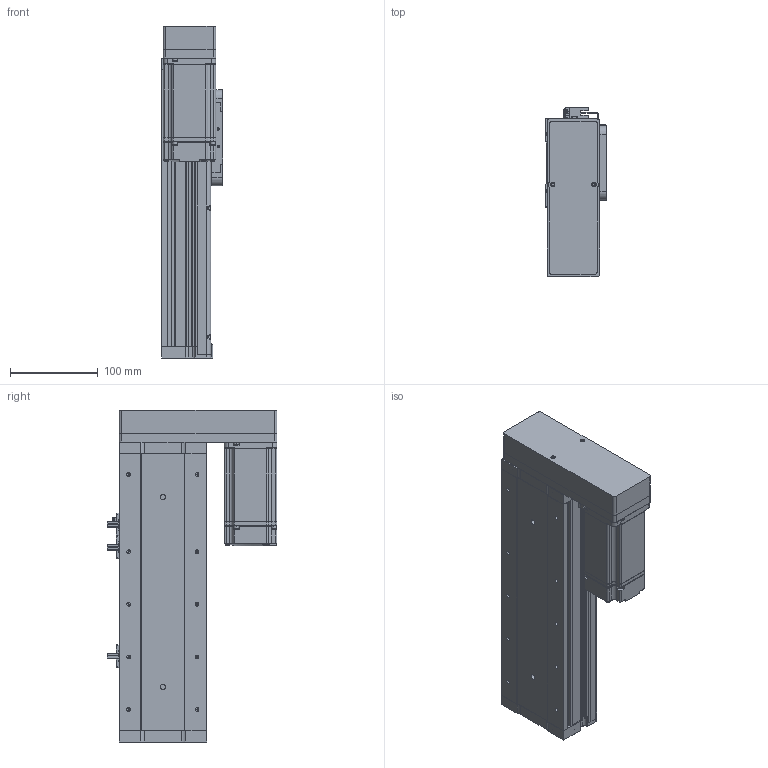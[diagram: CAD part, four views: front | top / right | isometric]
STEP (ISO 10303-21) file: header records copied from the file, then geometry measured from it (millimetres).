
FILE_DESCRIPTION (( 'STEP AP214' ), '1' );
FILE_NAME ('KSD100S-S150-MR-CR.STEP', '2019-09-03T00:58:55', ( '微软用户' ), ( '微软中国' ), 'SwSTEP 2.0', 'SolidWorks 2014', '' );
FILE_SCHEMA (( 'AUTOMOTIVE_DESIGN' ));
Length unit declared in the file: millimetre
Products named in the file (14): MHMD042G1CA_2_03; U倰嫖萇EEㄜSX672; 悵誘欶酘衵殏; 100宽马达安装板连板左右折丝杆; 感应片100宽全封闭; 100宽马达安装板全封闭; 100宽端板全封闭; 100宽滚珠螺姆安装板1防护罩; 100宽滚珠螺姆安装板1; 100遵裔啣揤啣; 100遵裔啣150俴最; 100遵耜啣150俴最佪裝; 100宽底板全封闭150行程丝杆; KSD100S-S150-MR-CR
Assembly tree (17 placements, depth 2):
  KSD100S-S150-MR-CR
    100宽底板全封闭150行程丝杆
    100遵耜啣150俴最佪裝  x2
    100遵裔啣150俴最
    100遵裔啣揤啣  x2
    100宽滚珠螺姆安装板1
    100宽滚珠螺姆安装板1防护罩
    100宽端板全封闭
    100宽马达安装板全封闭
    感应片100宽全封闭
    100宽马达安装板连板左右折丝杆
    悵誘欶酘衵殏
    U倰嫖萇EEㄜSX672  x3
    MHMD042G1CA_2_03
Bounding box: 70 x 193.7 x 378.5 mm (x, y, z)
Volume: 915384 mm3; surface area: 445893.4 mm2
Topology: 16 solids, 17 shells, 1545 faces, 4308 edges, 2776 vertices
Faces by surface type: plane 695, cylinder 651, cone 181, bspline 18
Entity records: 51426 total; most frequent: CARTESIAN_POINT 8010, DIRECTION 7343, ORIENTED_EDGE 6828, EDGE_CURVE 3486, AXIS2_PLACEMENT_3D 2601, VERTEX_POINT 2314, VECTOR 2141, LINE 2141
